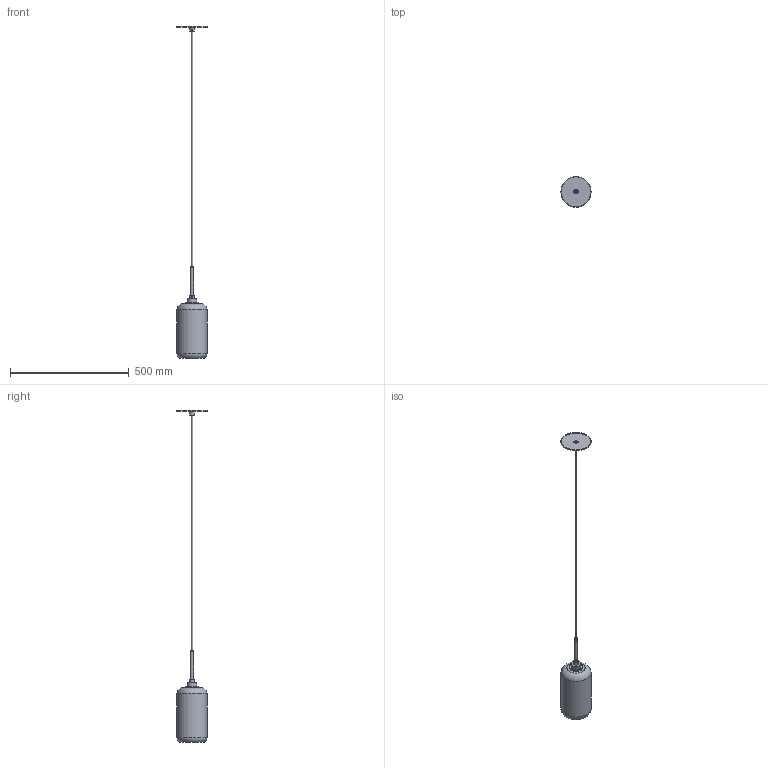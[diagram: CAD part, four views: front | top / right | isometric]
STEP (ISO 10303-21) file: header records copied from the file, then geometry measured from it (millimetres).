
FILE_DESCRIPTION(/* description */ (''),/* implementation_level */ '2;1');
FILE_NAME(/* name */ 'C:/Users/zach/Niche/Product Development - Documents/CAD Models/Pendants/Helio/CAD Models/Glass - Luxe Hardware/Niche - Helio Pendant.step',/* time_stamp */ '2022-08-01T12:42:20-04:00',/* author */ (''),/* organization */ (''),/* preprocessor_version */ 'ST-DEVELOPER v19',/* originating_system */ 'Autodesk Translation Framework v11.7.0.108',/* authorisation */ '');
FILE_SCHEMA (('AUTOMOTIVE_DESIGN { 1 0 10303 214 3 1 1 }'));
Length unit declared in the file: inch
Products named in the file (1): Helio
Bounding box: 127 x 127 x 1399.54 mm (x, y, z)
Volume: 505400.2 mm3; surface area: 307789.3 mm2
Topology: 11 solids, 11 shells, 191 faces, 486 edges, 321 vertices
Faces by surface type: cylinder 125, plane 50, bspline 10, torus 3, cone 2, sphere 1
Full cylindrical faces by diameter (mm): 4.529 x1, 5.08 x1, 6.096 x1, 6.35 x1, 6.5 x1, 7.62 x1, 7.744 x7, 8.036 x15, 8.852 x1, 8.884 x8, 9.035 x1, 9.146 x11, 10.16 x1, 12.7 x2, 19.05 x1, 19.2 x1, 25.4 x1, 26.022 x1, 34.97 x1, 35.052 x9, 37.85 x8, 38.1 x1, 39 x1, 39.35 x1, 41.035 x1, 41.2 x1, 41.884 x1, 44 x1, 55 x2, 125.476 x1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
Entity records: 14221 total; most frequent: CARTESIAN_POINT 9892, ORIENTED_EDGE 970, DIRECTION 724, EDGE_CURVE 485, VERTEX_POINT 321, AXIS2_PLACEMENT_3D 276, EDGE_LOOP 220, B_SPLINE_CURVE_WITH_KNOTS 218
